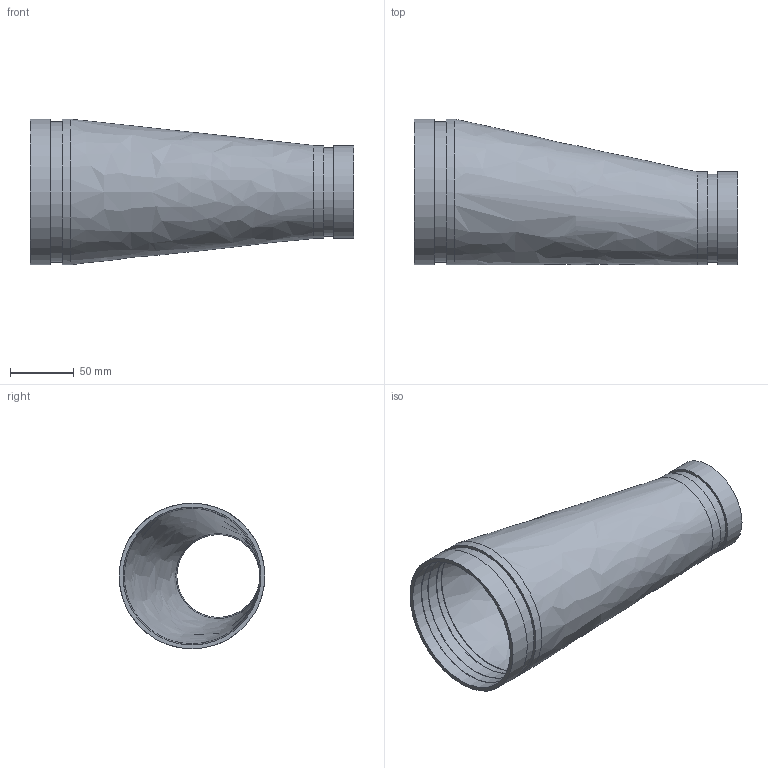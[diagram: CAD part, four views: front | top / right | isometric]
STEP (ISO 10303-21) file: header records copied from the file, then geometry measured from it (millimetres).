
FILE_DESCRIPTION(/* description */ ('VIC REDUCER ECCENTRIC No 451H-SS','CAx-IF Rec.Pracs.---Representation and Presentation of Product Manufacturing Information (PMI)---4.0---2014-10-13'),/* implementation_level */ '2;1');
FILE_NAME(/* name */ 'C:\Users\kkamble\AppData\Roaming\Autodesk\ApplicationPlugins\Back Up\Victaulic_SS-OGS_Reducer Eccentric_Sched 40S_No 451H SS (OGS)\Victaulic_SS-OGS_Reducer Eccentric_Sched 40S_No 451H SS (OGS)_04.0x02.5 (100x65).stp',/* time_stamp */ '2020-08-25T18:05:49+06:00',/* author */ ('CORINNE GRAY'),/* organization */ ('Victaulic'),/* preprocessor_version */ 'ST-DEVELOPER v17.2',/* originating_system */ 'Autodesk Inventor 2019',/* authorisation */ '');
FILE_SCHEMA (('AP242_MANAGED_MODEL_BASED_3D_ENGINEERING_MIM_LF { 1 0 10303 442 1 1 4 }'));
Length unit declared in the file: inch
Products named in the file (1): 451H SS-04.0x02.5
Bounding box: 254 x 114.3 x 114.3 mm (x, y, z)
Volume: 215879.3 mm3; surface area: 149368.4 mm2
Topology: 1 solids, 1 shells, 32 faces, 111 edges, 85 vertices
Faces by surface type: cylinder 12, torus 8, plane 6, cone 4, bspline 2
Full cylindrical faces by diameter (mm): 65.024 x1, 67.056 x2, 69.088 x1, 73.025 x2, 106.324 x1, 108.204 x2, 110.084 x1, 114.3 x2
Entity records: 1504 total; most frequent: DIRECTION 290, CARTESIAN_POINT 282, ORIENTED_EDGE 222, AXIS2_PLACEMENT_3D 137, EDGE_CURVE 111, CIRCLE 93, VERTEX_POINT 85, EDGE_LOOP 38
